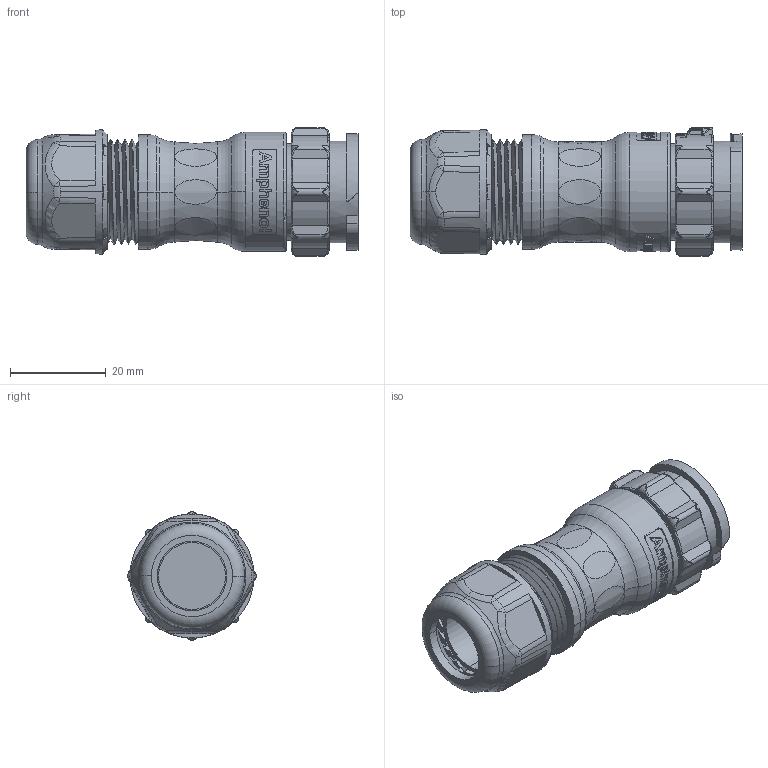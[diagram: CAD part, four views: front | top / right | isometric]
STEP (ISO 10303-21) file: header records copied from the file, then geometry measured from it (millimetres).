
FILE_DESCRIPTION((''),'2;1');
FILE_NAME('DX-XXBMFA-QL8XX0','2016-11-08T',('LT1040'),(''),'PRO/ENGINEER BY PARAMETRIC TECHNOLOGY CORPORATION, 2013050','PRO/ENGINEER BY PARAMETRIC TECHNOLOGY CORPORATION, 2013050','');
FILE_SCHEMA(('CONFIG_CONTROL_DESIGN'));
Products named in the file (1): DX-XXBMFA-QL8XX0
Bounding box: 69.5 x 27 x 27 mm (x, y, z)
Volume: 18550.4 mm3; surface area: 15537.1 mm2
Topology: 1 solids, 1 shells, 1015 faces, 2850 edges, 1844 vertices
Faces by surface type: plane 261, bspline 258, cylinder 231, extrusion 114, cone 79, torus 57, sphere 15
Entity records: 55925 total; most frequent: CARTESIAN_POINT 32626, ORIENTED_EDGE 5670, DIRECTION 3554, EDGE_CURVE 2835, VERTEX_POINT 1844, B_SPLINE_CURVE_WITH_KNOTS 1429, AXIS2_PLACEMENT_3D 1277, EDGE_LOOP 1063
